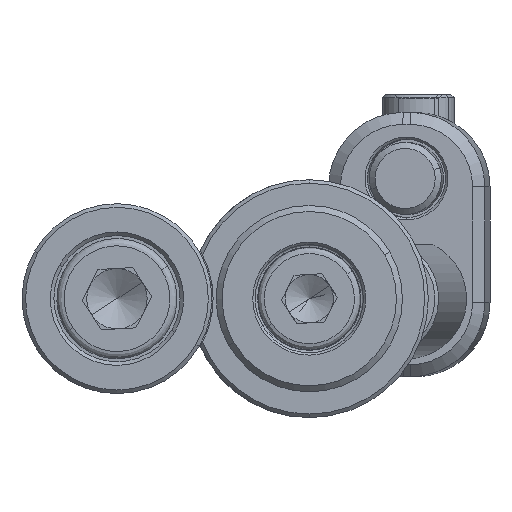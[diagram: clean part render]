
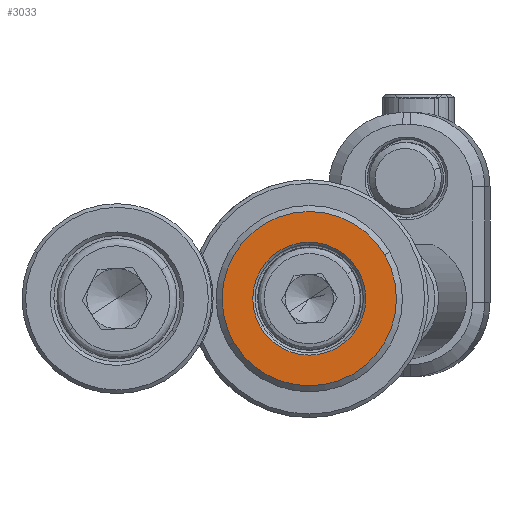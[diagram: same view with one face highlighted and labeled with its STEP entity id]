
A CAD part, front view. The second image highlights one B-rep face of the part: STEP entity #3033.
In plain terms, the highlighted planar face has unit normal (0, -1, 0).
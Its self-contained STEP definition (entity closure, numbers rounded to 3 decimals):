
#22 = CARTESIAN_POINT ( 'NONE',  ( 0., -4., 0. ) ) ;
#330 = DIRECTION ( 'NONE',  ( 0., 1., 0. ) ) ;
#773 = EDGE_LOOP ( 'NONE', ( #5675, #6012 ) ) ;
#991 = CARTESIAN_POINT ( 'NONE',  ( -6.268, -4., -3.643 ) ) ;
#1261 = DIRECTION ( 'NONE',  ( 0., -1., 0. ) ) ;
#1753 = DIRECTION ( 'NONE',  ( -0.865, 0., -0.503 ) ) ;
#3033 = ADVANCED_FACE ( 'NONE', ( #12998, #3202 ), #13069, .F. ) ;
#3187 = CIRCLE ( 'NONE', #10042, 7.25 ) ;
#3202 = FACE_OUTER_BOUND ( 'NONE', #11501, .T. ) ;
#3278 = DIRECTION ( 'NONE',  ( -0.865, 0., -0.503 ) ) ;
#3415 = AXIS2_PLACEMENT_3D ( 'NONE', #9644, #8560, #1753 ) ;
#3682 = DIRECTION ( 'NONE',  ( -0.865, 0., -0.503 ) ) ;
#4186 = ORIENTED_EDGE ( 'NONE', *, *, #9182, .T. ) ;
#5498 = DIRECTION ( 'NONE',  ( -0.865, 0., -0.503 ) ) ;
#5675 = ORIENTED_EDGE ( 'NONE', *, *, #6872, .T. ) ;
#6012 = ORIENTED_EDGE ( 'NONE', *, *, #7430, .T. ) ;
#6589 = CARTESIAN_POINT ( 'NONE',  ( 4.063, -4., 2.362 ) ) ;
#6872 = EDGE_CURVE ( 'NONE', #10511, #13414, #11611, .T. ) ;
#6957 = ORIENTED_EDGE ( 'NONE', *, *, #12291, .T. ) ;
#7001 = CARTESIAN_POINT ( 'NONE',  ( 0., -4., 0. ) ) ;
#7007 = AXIS2_PLACEMENT_3D ( 'NONE', #7001, #10320, #11587 ) ;
#7414 = CARTESIAN_POINT ( 'NONE',  ( 6.268, -4., 3.643 ) ) ;
#7430 = EDGE_CURVE ( 'NONE', #13414, #10511, #7534, .T. ) ;
#7534 = CIRCLE ( 'NONE', #3415, 4.7 ) ;
#8276 = CARTESIAN_POINT ( 'NONE',  ( -4.063, -4., -2.362 ) ) ;
#8560 = DIRECTION ( 'NONE',  ( 0., 1., 0. ) ) ;
#9182 = EDGE_CURVE ( 'NONE', #11982, #12580, #3187, .T. ) ;
#9644 = CARTESIAN_POINT ( 'NONE',  ( 0., -4., 0. ) ) ;
#10042 = AXIS2_PLACEMENT_3D ( 'NONE', #22, #1261, #5498 ) ;
#10320 = DIRECTION ( 'NONE',  ( 0., -1., 0. ) ) ;
#10511 = VERTEX_POINT ( 'NONE', #6589 ) ;
#10949 = DIRECTION ( 'NONE',  ( 0., 1., 0. ) ) ;
#11501 = EDGE_LOOP ( 'NONE', ( #4186, #6957 ) ) ;
#11586 = CIRCLE ( 'NONE', #7007, 7.25 ) ;
#11587 = DIRECTION ( 'NONE',  ( -0.865, 0., -0.503 ) ) ;
#11611 = CIRCLE ( 'NONE', #11849, 4.7 ) ;
#11849 = AXIS2_PLACEMENT_3D ( 'NONE', #11932, #10949, #3278 ) ;
#11932 = CARTESIAN_POINT ( 'NONE',  ( 0., -4., 0. ) ) ;
#11982 = VERTEX_POINT ( 'NONE', #991 ) ;
#12291 = EDGE_CURVE ( 'NONE', #12580, #11982, #11586, .T. ) ;
#12580 = VERTEX_POINT ( 'NONE', #7414 ) ;
#12998 = FACE_BOUND ( 'NONE', #773, .T. ) ;
#13069 = PLANE ( 'NONE',  #13642 ) ;
#13414 = VERTEX_POINT ( 'NONE', #8276 ) ;
#13481 = CARTESIAN_POINT ( 'NONE',  ( 2.261, -4., -3.891 ) ) ;
#13642 = AXIS2_PLACEMENT_3D ( 'NONE', #13481, #330, #3682 ) ;
